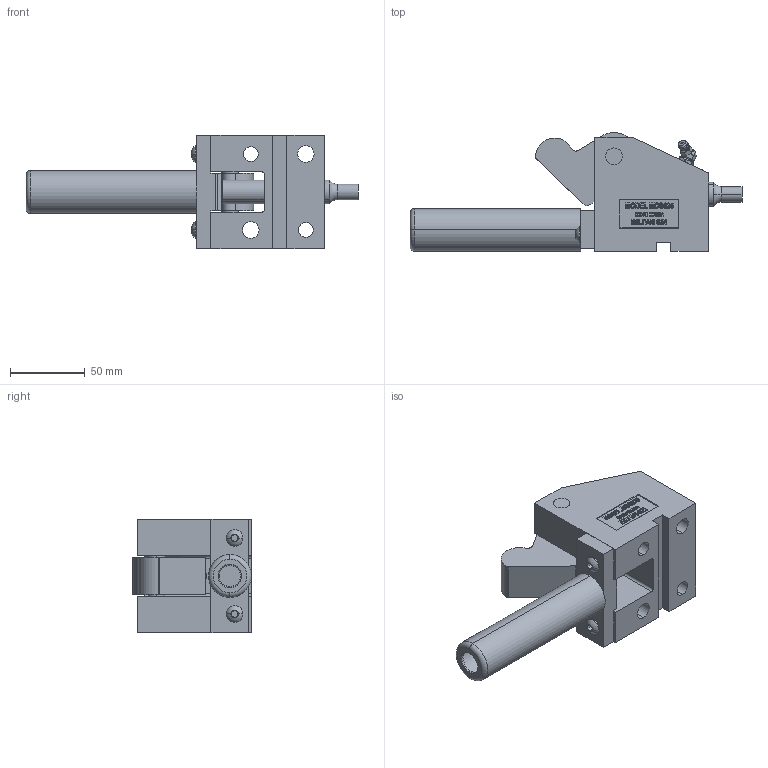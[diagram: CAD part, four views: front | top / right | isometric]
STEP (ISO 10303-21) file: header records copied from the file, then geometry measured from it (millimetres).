
FILE_DESCRIPTION (( 'STEP AP214' ), '1' );
FILE_NAME ('MOS62545-O.STEP', '2014-01-07T19:51:43', ( 'user' ), ( '' ), 'SwSTEP 2.0', 'SolidWorks 2009', '' );
FILE_SCHEMA (( 'AUTOMOTIVE_DESIGN' ));
Length unit declared in the file: inch
Products named in the file (1): MOS62545-O
Bounding box: 222.12 x 79.37 x 76.2 mm (x, y, z)
Surface area: 89319.8 mm2 (no closed solid volume)
Topology: 0 solids, 10 shells, 461 faces, 1491 edges, 1012 vertices
Faces by surface type: plane 267, bspline 92, cylinder 68, torus 20, cone 10, sphere 4
Entity records: 28354 total; most frequent: CARTESIAN_POINT 10150, ORIENTED_EDGE 2581, DIRECTION 2099, EDGE_CURVE 1491, VERTEX_POINT 1012, VECTOR 963, LINE 963, AXIS2_PLACEMENT_3D 568
